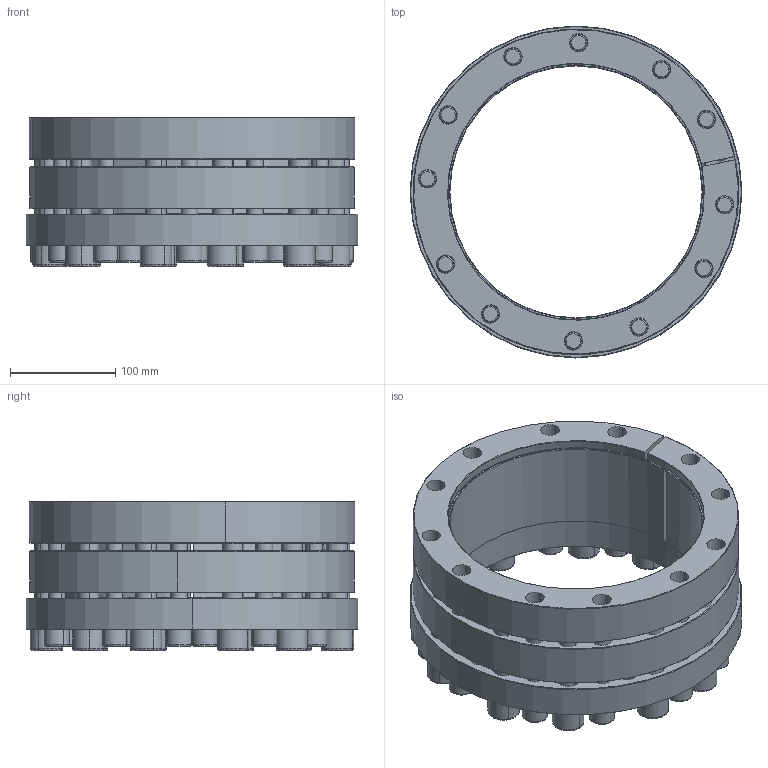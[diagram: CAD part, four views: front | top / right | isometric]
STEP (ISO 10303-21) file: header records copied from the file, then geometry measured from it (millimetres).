
FILE_DESCRIPTION (( 'STEP AP214' ), '1' );
FILE_NAME ('CONEX-P-240x310-P-006.step', '2015-11-30T21:14:05', ( '' ), ( '' ), 'SwSTEP 2.0', 'SolidWorks 2013', '' );
FILE_SCHEMA (( 'AUTOMOTIVE_DESIGN' ));
Length unit declared in the file: millimetre
Products named in the file (1): CONEX-P-240x310-P-006
Bounding box: 316 x 316 x 142 mm (x, y, z)
Volume: 3712699.7 mm3; surface area: 810943.6 mm2
Topology: 27 solids, 27 shells, 841 faces, 1940 edges, 1154 vertices
Faces by surface type: plane 381, cylinder 238, cone 124, torus 98
Entity records: 33253 total; most frequent: DIRECTION 4446, CARTESIAN_POINT 4034, ORIENTED_EDGE 3784, EDGE_CURVE 1892, AXIS2_PLACEMENT_3D 1748, VERTEX_POINT 1154, EDGE_LOOP 1022, VECTOR 950
